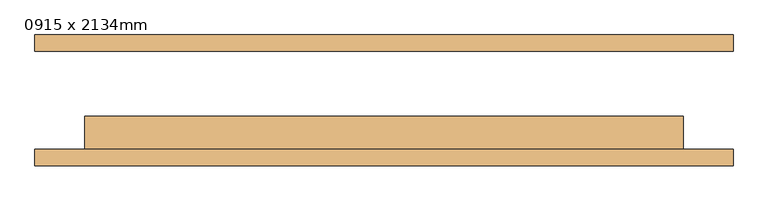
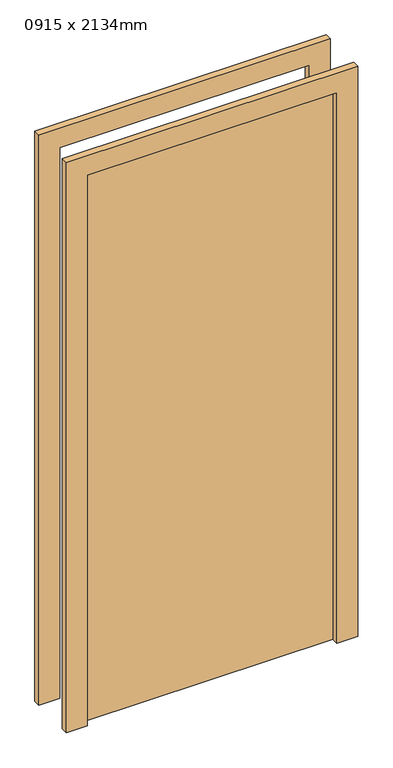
"""IFC4 building model written with IfcOpenShell, lengths in millimetres: door geometry, M_Folha única : 0915 x 2134mm."""

from ifc_helpers import new_model, si_unit, frame, origin, origin_with_axes, place, context, project, spatial, polyline, outline, extrude, source, transform, mapped, element, save


def door_0915_x_2134mm_f3d7f739(model_context):
    return source(origin(), model_context, "Body", "SweptSolid", [
        extrude(outline(polyline([(2210.0, -533.5), (0.0, -533.5), (0.0, -457.5), (2134.0, -457.5), (2134.0, 457.5), (0.0, 457.5), (0.0, 533.5), (2210.0, 533.5), (2210.0, -533.5)])), frame((0.0, -100.0, 0.0), z_axis=(0.0, 1.0, 0.0), x_axis=(0.0, 0.0, 1.0)), (0.0, 0.0, 1.0), 25.0),
        extrude(outline(polyline([(2210.0, 533.5), (2210.0, -533.5), (0.0, -533.5), (0.0, -457.5), (2134.0, -457.5), (2134.0, 457.5), (0.0, 457.5), (0.0, 533.5), (2210.0, 533.5)])), frame((0.0, 75.0, 0.0), z_axis=(0.0, 1.0, 0.0), x_axis=(0.0, 0.0, 1.0)), (0.0, 0.0, 1.0), 25.0),
        extrude(outline(polyline([(457.5, -24.0), (457.5, -75.0), (-457.5, -75.0), (-457.5, -24.0), (457.5, -24.0)])), origin_with_axes(), (0.0, 0.0, 1.0), 2134.0),
    ])


if __name__ == "__main__":
    model = new_model("IFC4")
    model_context = context("Model", 3, world=origin())
    ifc_project = project(units=[si_unit("LENGTHUNIT", "METRE", prefix="MILLI")], contexts=[model_context])
    site = spatial("IfcSite", under=ifc_project)
    building = spatial("IfcBuilding", under=site)
    placement = place(None, origin())
    door_0915_x_2134mm_shape = door_0915_x_2134mm_f3d7f739(model_context)
    element("IfcDoor", 1, ObjectType="M_Folha única : 0915 x 2134mm", at=placement, inside=building, context=model_context, shape_type="MappedRepresentation", body=[
        mapped(door_0915_x_2134mm_shape, transform((0.0, 0.0, 0.0), x_axis=(1.0, 0.0, 0.0), y_axis=(0.0, 1.0, 0.0), z_axis=(0.0, 0.0, 1.0))),
    ])
    save(model, "model.ifc")
